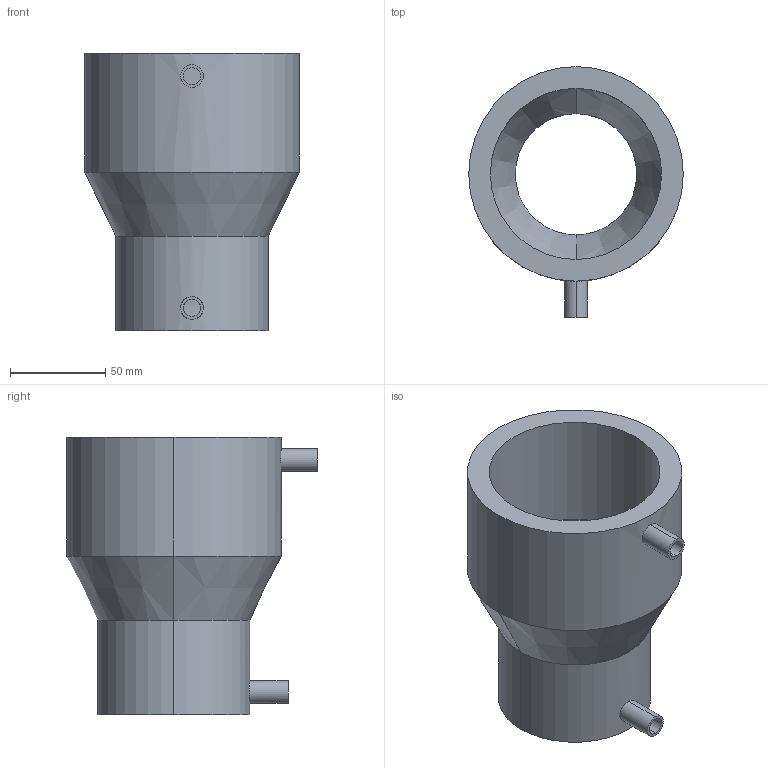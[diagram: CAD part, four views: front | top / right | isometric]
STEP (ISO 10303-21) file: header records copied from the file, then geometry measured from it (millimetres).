
FILE_DESCRIPTION (( 'STEP AP203' ), '1' );
FILE_NAME ('KP_29-90-63.step', '2011-08-08T11:39:36', ( '' ), ( '' ), 'SwSTEP 2.0', 'SolidWorks 2011', '' );
FILE_SCHEMA (( 'CONFIG_CONTROL_DESIGN' ));
Length unit declared in the file: millimetre
Products named in the file (1): KP_29-90-63
Bounding box: 112.8 x 131.8 x 145.9 mm (x, y, z)
Volume: 406335.9 mm3; surface area: 90486.6 mm2
Topology: 1 solids, 1 shells, 26 faces, 56 edges, 36 vertices
Faces by surface type: cylinder 17, plane 5, cone 4
Entity records: 1020 total; most frequent: CARTESIAN_POINT 352, DIRECTION 134, ORIENTED_EDGE 112, AXIS2_PLACEMENT_3D 57, EDGE_CURVE 56, VERTEX_POINT 36, EDGE_LOOP 32, CIRCLE 30
